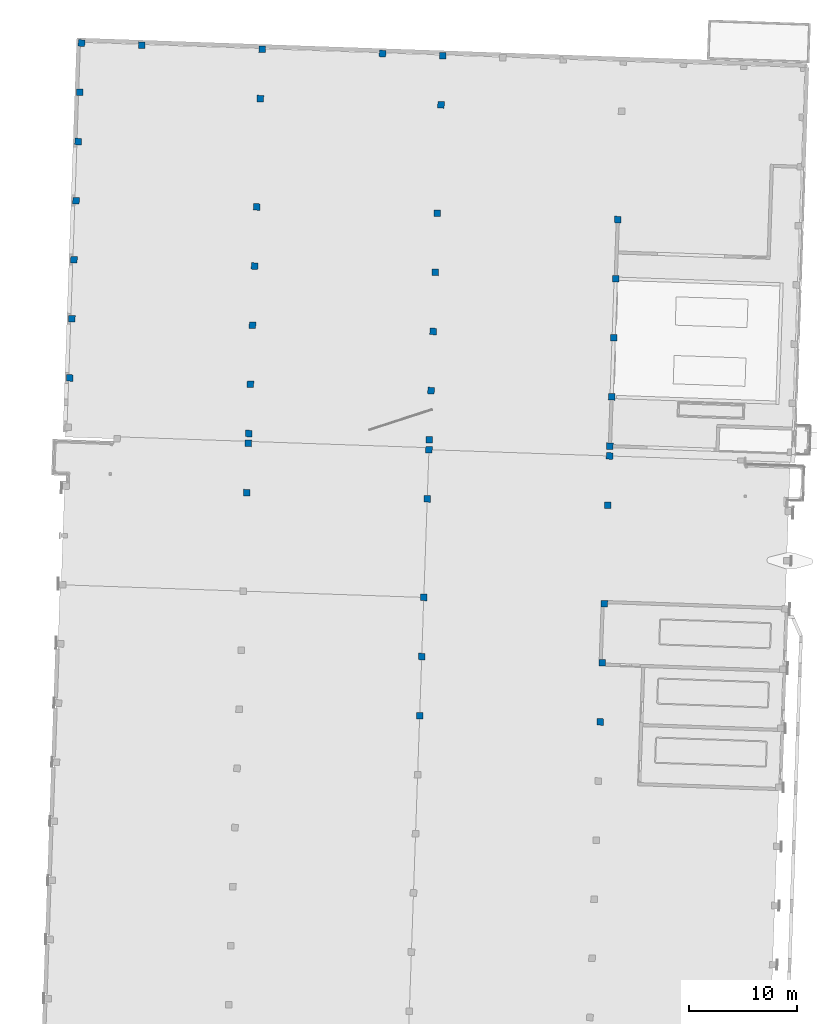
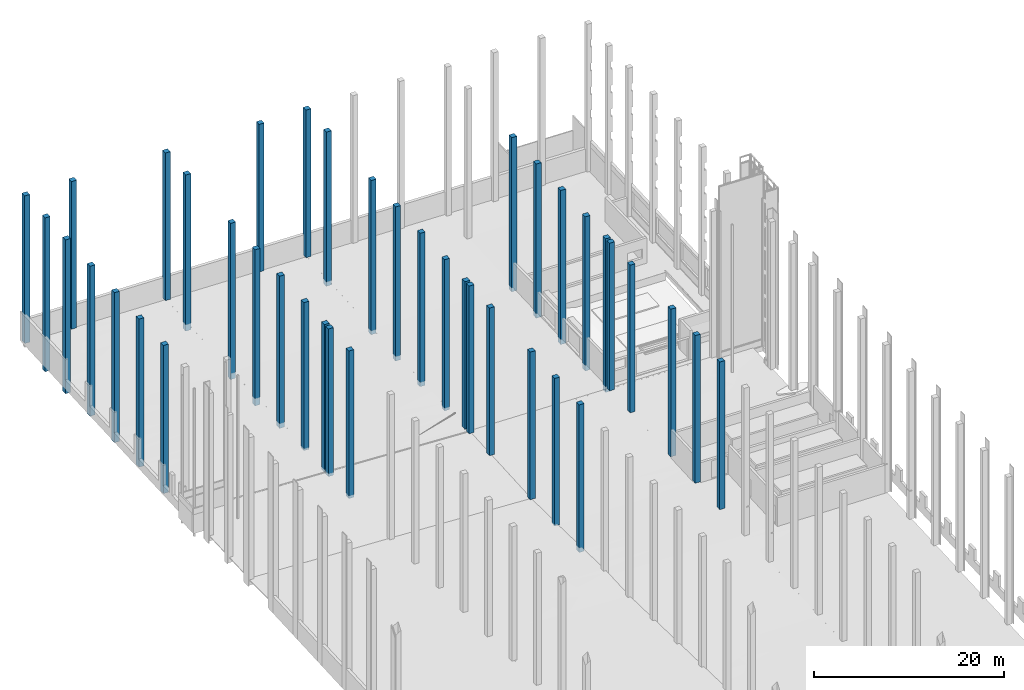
# One storey, part 4 of 44: 40 columns.
"""IFC2X3 building model written with IfcOpenShell, lengths in feet."""

from ifc_helpers import new_model, entity, si_unit, converted_unit, derived_unit, direction, frame, origin, origin_2d_with_axis, place, context, subcontext, project, spatial, rectangle, extrude, source, transform, mapped, material, type_object, type_shapes, element, save


model = new_model("IFC2X3")

# Units and contexts
model_context = context("Model", 3, precision=0.0001, world=origin(), true_north=direction((0.999390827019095, 0.0348994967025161)))
body_context = subcontext(model_context, "Body", "Model", "MODEL_VIEW")
ifc_project = project(units=[converted_unit("LENGTHUNIT", "FOOT", entity("IfcRatioMeasure", 0.3048), si_unit("LENGTHUNIT", "METRE"), dimensions=[1, 0, 0, 0, 0, 0, 0]), converted_unit("AREAUNIT", "SQUARE FOOT", entity("IfcRatioMeasure", 0.09290304), si_unit("AREAUNIT", "SQUARE_METRE"), dimensions=[2, 0, 0, 0, 0, 0, 0]), converted_unit("VOLUMEUNIT", "CUBIC FOOT", entity("IfcRatioMeasure", 0.028316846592), si_unit("VOLUMEUNIT", "CUBIC_METRE"), dimensions=[3, 0, 0, 0, 0, 0, 0]), converted_unit("PLANEANGLEUNIT", "DEGREE", entity("IfcRatioMeasure", 0.0174532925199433), si_unit("PLANEANGLEUNIT", "RADIAN"), dimensions=[0, 0, 0, 0, 0, 0, 0]), si_unit("MASSUNIT", "GRAM", prefix="KILO"), si_unit("TIMEUNIT", "SECOND"), si_unit("FREQUENCYUNIT", "HERTZ"), si_unit("THERMODYNAMICTEMPERATUREUNIT", "DEGREE_CELSIUS"), derived_unit("THERMALTRANSMITTANCEUNIT", [(si_unit("MASSUNIT", "GRAM", prefix="KILO"), 1), (si_unit("THERMODYNAMICTEMPERATUREUNIT", "KELVIN"), -1), (si_unit("TIMEUNIT", "SECOND"), -3)]), derived_unit("VOLUMETRICFLOWRATEUNIT", [(si_unit("LENGTHUNIT", "METRE"), 3), (si_unit("TIMEUNIT", "SECOND"), -1)]), si_unit("ELECTRICCURRENTUNIT", "AMPERE"), si_unit("ELECTRICVOLTAGEUNIT", "VOLT"), si_unit("POWERUNIT", "WATT"), si_unit("FORCEUNIT", "NEWTON"), si_unit("ILLUMINANCEUNIT", "LUX"), si_unit("LUMINOUSFLUXUNIT", "LUMEN"), si_unit("LUMINOUSINTENSITYUNIT", "CANDELA"), derived_unit("USERDEFINED", [(si_unit("MASSUNIT", "GRAM", prefix="KILO"), -1), (si_unit("LENGTHUNIT", "METRE"), -2), (si_unit("TIMEUNIT", "SECOND"), 3), (si_unit("LUMINOUSFLUXUNIT", "LUMEN"), 1)]), derived_unit("LINEARVELOCITYUNIT", [(si_unit("LENGTHUNIT", "METRE"), 1), (si_unit("TIMEUNIT", "SECOND"), -1)]), si_unit("PRESSUREUNIT", "PASCAL"), derived_unit("USERDEFINED", [(si_unit("LENGTHUNIT", "METRE"), -2), (si_unit("MASSUNIT", "GRAM", prefix="KILO"), 1), (si_unit("TIMEUNIT", "SECOND"), -2)])], contexts=[model_context])

# Site, building, storey
site_placement = place(None, frame((892.518771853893, 322.38689265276, 0.00393700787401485), z_axis=(0.0, 0.0, 1.0), x_axis=(0.0348994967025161, 0.999390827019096, 0.0)))
site = spatial("IfcSite", under=ifc_project, at=site_placement, Name="Default", CompositionType="ELEMENT")
building_placement = place(site_placement, origin())
building = spatial("IfcBuilding", under=site, at=building_placement, CompositionType="ELEMENT")
storey_placement = place(building_placement, frame((0.0, 0.0, 544.75)))
storey = spatial("IfcBuildingStorey", under=building, at=storey_placement, Name="Exist Garage - Ground Level", CompositionType="ELEMENT", Elevation=544.75)

# Columns
ifc_material = material(Name="Concrete - Cast-in-Place Concrete")
column_type_1 = type_object("IfcColumnType", Name="24 x 24", PredefinedType="COLUMN", material=ifc_material)
shared_shape_1 = source(origin(), body_context, "Body", "SweptSolid", [
    extrude(rectangle(XDim=2.0, YDim=2.0, at=origin_2d_with_axis()), frame((0.0, 0.0, 544.75), z_axis=(0.0, 0.0, 1.0), x_axis=(0.0, -1.0, 0.0)), (0.0, 0.0, 1.0), 62.25),
])
type_shapes(column_type_1, [shared_shape_1])
column_1_placement = place(storey_placement, frame((222.927293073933, 456.76395347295, -544.75)))
element("IfcColumn", 1, at=column_1_placement, inside=storey, type_object=column_type_1, material=ifc_material, Name="Concrete-Square-Column:24 x 24", ObjectType="24 x 24", context=body_context, shape_type="MappedRepresentation", body=[
    mapped(shared_shape_1, transform((0.0, 0.0, 0.0), scale=1.0)),
])
column_type_2 = type_object("IfcColumnType", Name="24 x 24", PredefinedType="COLUMN", material=ifc_material)
shared_shape_2 = source(origin(), body_context, "Body", "SweptSolid", [
    extrude(rectangle(XDim=2.0, YDim=2.0, at=origin_2d_with_axis()), frame((222.927293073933, 438.430620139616, 544.75), z_axis=(0.0, 0.0, 1.0), x_axis=(0.0, -1.0, 0.0)), (0.0, 0.0, 1.0), 62.25),
])
type_shapes(column_type_2, [shared_shape_2])
column_2_placement = place(storey_placement, frame((0.0, 0.0, -544.75)))
element("IfcColumn", 2, at=column_2_placement, inside=storey, type_object=column_type_2, material=ifc_material, Name="Concrete-Square-Column:24 x 24", ObjectType="24 x 24", context=body_context, shape_type="MappedRepresentation", body=[
    mapped(shared_shape_2, transform((0.0, 0.0, 0.0), scale=1.0)),
])
column_type_3 = type_object("IfcColumnType", Name="24 x 24", PredefinedType="COLUMN", material=ifc_material)
shared_shape_3 = source(origin(), body_context, "Body", "SweptSolid", [
    extrude(rectangle(XDim=2.0, YDim=2.0, at=origin_2d_with_axis()), frame((222.927293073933, 401.76395347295, 544.75), z_axis=(0.0, 0.0, 1.0), x_axis=(0.0, -1.0, 0.0)), (0.0, 0.0, 1.0), 62.25),
])
type_shapes(column_type_3, [shared_shape_3])
column_3_placement = place(storey_placement, frame((0.0, 0.0, -544.75)))
element("IfcColumn", 3, at=column_3_placement, inside=storey, type_object=column_type_3, material=ifc_material, Name="Concrete-Square-Column:24 x 24", ObjectType="24 x 24", context=body_context, shape_type="MappedRepresentation", body=[
    mapped(shared_shape_3, transform((0.0, 0.0, 0.0), scale=1.0)),
])
column_type_4 = type_object("IfcColumnType", Name="24 x 24", PredefinedType="COLUMN", material=ifc_material)
shared_shape_4 = source(origin(), body_context, "Body", "SweptSolid", [
    extrude(rectangle(XDim=2.0, YDim=2.0, at=origin_2d_with_axis()), frame((222.927293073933, 365.097286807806, 544.75), z_axis=(0.0, 0.0, 1.0), x_axis=(0.0, -1.0, 0.0)), (0.0, 0.0, 1.0), 62.25),
])
type_shapes(column_type_4, [shared_shape_4])
column_4_placement = place(storey_placement, frame((0.0, 0.0, -544.75)))
element("IfcColumn", 4, at=column_4_placement, inside=storey, type_object=column_type_4, material=ifc_material, Name="Concrete-Square-Column:24 x 24", ObjectType="24 x 24", context=body_context, shape_type="MappedRepresentation", body=[
    mapped(shared_shape_4, transform((0.0, 0.0, 0.0), scale=1.0)),
])
column_type_5 = type_object("IfcColumnType", Name="24 x 24", PredefinedType="COLUMN", material=ifc_material)
shared_shape_5 = source(origin(), body_context, "Body", "SweptSolid", [
    extrude(rectangle(XDim=2.0, YDim=2.0, at=origin_2d_with_axis()), frame((222.927293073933, 346.763953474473, 544.75), z_axis=(0.0, 0.0, 1.0), x_axis=(0.0, -1.0, 0.0)), (0.0, 0.0, 1.0), 62.25),
])
type_shapes(column_type_5, [shared_shape_5])
column_5_placement = place(storey_placement, frame((0.0, 0.0, -544.75)))
element("IfcColumn", 5, at=column_5_placement, inside=storey, type_object=column_type_5, material=ifc_material, Name="Concrete-Square-Column:24 x 24", ObjectType="24 x 24", context=body_context, shape_type="MappedRepresentation", body=[
    mapped(shared_shape_5, transform((0.0, 0.0, 0.0), scale=1.0)),
])
column_type_6 = type_object("IfcColumnType", Name="24 x 24", PredefinedType="COLUMN", material=ifc_material)
shared_shape_6 = source(origin(), body_context, "Body", "SweptSolid", [
    extrude(rectangle(XDim=2.0, YDim=2.0, at=origin_2d_with_axis()), frame((207.927293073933, 456.76395347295, 542.1298828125), z_axis=(0.0, 0.0, 1.0), x_axis=(0.0, -1.0, 0.0)), (0.0, 0.0, 1.0), 64.8701171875),
])
type_shapes(column_type_6, [shared_shape_6])
column_6_placement = place(storey_placement, frame((0.0, 0.0, -544.75)))
element("IfcColumn", 6, at=column_6_placement, inside=storey, type_object=column_type_6, material=ifc_material, Name="Concrete-Square-Column:24 x 24", ObjectType="24 x 24", context=body_context, shape_type="MappedRepresentation", body=[
    mapped(shared_shape_6, transform((0.0, 0.0, 0.0), scale=1.0)),
])
column_type_7 = type_object("IfcColumnType", Name="24 x 24", PredefinedType="COLUMN", material=ifc_material)
shared_shape_7 = source(origin(), body_context, "Body", "SweptSolid", [
    extrude(rectangle(XDim=2.0, YDim=2.0, at=origin_2d_with_axis()), frame((192.927293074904, 456.76395347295, 542.1298828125), z_axis=(0.0, 0.0, 1.0), x_axis=(0.0, -1.0, 0.0)), (0.0, 0.0, 1.0), 64.8701171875),
])
type_shapes(column_type_7, [shared_shape_7])
column_7_placement = place(storey_placement, frame((0.0, 0.0, -544.75)))
element("IfcColumn", 7, at=column_7_placement, inside=storey, type_object=column_type_7, material=ifc_material, Name="Concrete-Square-Column:24 x 24", ObjectType="24 x 24", context=body_context, shape_type="MappedRepresentation", body=[
    mapped(shared_shape_7, transform((0.0, 0.0, 0.0), scale=1.0)),
])
column_type_8 = type_object("IfcColumnType", Name="24 x 24", PredefinedType="COLUMN", material=ifc_material)
shared_shape_8 = source(origin(), body_context, "Body", "SweptSolid", [
    extrude(rectangle(XDim=2.0, YDim=2.0, at=origin_2d_with_axis()), frame((174.927293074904, 456.76395347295, 543.75), z_axis=(0.0, 0.0, 1.0), x_axis=(0.0, -1.0, 0.0)), (0.0, 0.0, 1.0), 63.25),
])
type_shapes(column_type_8, [shared_shape_8])
column_8_placement = place(storey_placement, frame((0.0, 0.0, -544.75)))
element("IfcColumn", 8, at=column_8_placement, inside=storey, type_object=column_type_8, material=ifc_material, Name="Concrete-Square-Column:24 x 24", ObjectType="24 x 24", context=body_context, shape_type="MappedRepresentation", body=[
    mapped(shared_shape_8, transform((0.0, 0.0, 0.0), scale=1.0)),
])
column_type_9 = type_object("IfcColumnType", Name="24 x 24", PredefinedType="COLUMN", material=ifc_material)
shared_shape_9 = source(origin(), body_context, "Body", "SweptSolid", [
    extrude(rectangle(XDim=2.0, YDim=2.0, at=origin_2d_with_axis()), frame((156.927293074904, 456.76395347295, 543.75), z_axis=(0.0, 0.0, 1.0), x_axis=(0.0, -1.0, 0.0)), (0.0, 0.0, 1.0), 63.25),
])
type_shapes(column_type_9, [shared_shape_9])
column_9_placement = place(storey_placement, frame((0.0, 0.0, -544.75)))
element("IfcColumn", 9, at=column_9_placement, inside=storey, type_object=column_type_9, material=ifc_material, Name="Concrete-Square-Column:24 x 24", ObjectType="24 x 24", context=body_context, shape_type="MappedRepresentation", body=[
    mapped(shared_shape_9, transform((0.0, 0.0, 0.0), scale=1.0)),
])
column_type_10 = type_object("IfcColumnType", Name="24 x 24", PredefinedType="COLUMN", material=ifc_material)
shared_shape_10 = source(origin(), body_context, "Body", "SweptSolid", [
    extrude(rectangle(XDim=2.0, YDim=2.0, at=origin_2d_with_axis()), frame((138.927293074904, 456.76395347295, 544.550130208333), z_axis=(0.0, 0.0, 1.0), x_axis=(0.0, -1.0, 0.0)), (0.0, 0.0, 1.0), 62.4498697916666),
])
type_shapes(column_type_10, [shared_shape_10])
column_10_placement = place(storey_placement, frame((0.0, 0.0, -544.75)))
element("IfcColumn", 10, at=column_10_placement, inside=storey, type_object=column_type_10, material=ifc_material, Name="Concrete-Square-Column:24 x 24", ObjectType="24 x 24", context=body_context, shape_type="MappedRepresentation", body=[
    mapped(shared_shape_10, transform((0.0, 0.0, 0.0), scale=1.0)),
])
column_type_11 = type_object("IfcColumnType", Name="24 x 24", PredefinedType="COLUMN", material=ifc_material)
shared_shape_11 = source(origin(), body_context, "Body", "SweptSolid", [
    extrude(rectangle(XDim=2.0, YDim=2.0, at=origin_2d_with_axis()), frame((120.927293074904, 456.76395347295, 544.550130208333), z_axis=(0.0, 0.0, 1.0), x_axis=(0.0, -1.0, 0.0)), (0.0, 0.0, 1.0), 62.4498697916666),
])
type_shapes(column_type_11, [shared_shape_11])
column_11_placement = place(storey_placement, frame((0.0, 0.0, -544.75)))
element("IfcColumn", 11, at=column_11_placement, inside=storey, type_object=column_type_11, material=ifc_material, Name="Concrete-Square-Column:24 x 24", ObjectType="24 x 24", context=body_context, shape_type="MappedRepresentation", body=[
    mapped(shared_shape_11, transform((0.0, 0.0, 0.0), scale=1.0)),
])
column_type_12 = type_object("IfcColumnType", Name="24 x 24", PredefinedType="COLUMN", material=ifc_material)
shared_shape_12 = source(origin(), body_context, "Body", "SweptSolid", [
    extrude(rectangle(XDim=2.0, YDim=2.0, at=origin_2d_with_axis()), frame((207.927293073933, 401.76395347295, 541.169921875), z_axis=(0.0, 0.0, 1.0), x_axis=(0.0, -1.0, 0.0)), (0.0, 0.0, 1.0), 65.830078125),
])
type_shapes(column_type_12, [shared_shape_12])
column_12_placement = place(storey_placement, frame((0.0, 0.0, -544.75)))
element("IfcColumn", 12, at=column_12_placement, inside=storey, type_object=column_type_12, material=ifc_material, Name="Concrete-Square-Column:24 x 24", ObjectType="24 x 24", context=body_context, shape_type="MappedRepresentation", body=[
    mapped(shared_shape_12, transform((0.0, 0.0, 0.0), scale=1.0)),
])
column_type_13 = type_object("IfcColumnType", Name="24 x 24", PredefinedType="COLUMN", material=ifc_material)
shared_shape_13 = source(origin(), body_context, "Body", "SweptSolid", [
    extrude(rectangle(XDim=2.0, YDim=2.0, at=origin_2d_with_axis()), frame((174.927293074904, 401.76395347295, 541.169921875), z_axis=(0.0, 0.0, 1.0), x_axis=(0.0, -1.0, 0.0)), (0.0, 0.0, 1.0), 65.830078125),
])
type_shapes(column_type_13, [shared_shape_13])
column_13_placement = place(storey_placement, frame((0.0, 0.0, -544.75)))
element("IfcColumn", 13, at=column_13_placement, inside=storey, type_object=column_type_13, material=ifc_material, Name="Concrete-Square-Column:24 x 24", ObjectType="24 x 24", context=body_context, shape_type="MappedRepresentation", body=[
    mapped(shared_shape_13, transform((0.0, 0.0, 0.0), scale=1.0)),
])
column_type_14 = type_object("IfcColumnType", Name="24 x 24", PredefinedType="COLUMN", material=ifc_material)
shared_shape_14 = source(origin(), body_context, "Body", "SweptSolid", [
    extrude(rectangle(XDim=2.0, YDim=2.0, at=origin_2d_with_axis()), frame((156.927293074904, 401.76395347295, 541.169921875), z_axis=(0.0, 0.0, 1.0), x_axis=(0.0, -1.0, 0.0)), (0.0, 0.0, 1.0), 65.830078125),
])
type_shapes(column_type_14, [shared_shape_14])
column_14_placement = place(storey_placement, frame((0.0, 0.0, -544.75)))
element("IfcColumn", 14, at=column_14_placement, inside=storey, type_object=column_type_14, material=ifc_material, Name="Concrete-Square-Column:24 x 24", ObjectType="24 x 24", context=body_context, shape_type="MappedRepresentation", body=[
    mapped(shared_shape_14, transform((0.0, 0.0, 0.0), scale=1.0)),
])
column_type_15 = type_object("IfcColumnType", Name="24 x 24", PredefinedType="COLUMN", material=ifc_material)
shared_shape_15 = source(origin(), body_context, "Body", "SweptSolid", [
    extrude(rectangle(XDim=2.0, YDim=2.0, at=origin_2d_with_axis()), frame((138.927293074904, 401.76395347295, 542.830078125), z_axis=(0.0, 0.0, 1.0), x_axis=(0.0, -1.0, 0.0)), (0.0, 0.0, 1.0), 64.169921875),
])
type_shapes(column_type_15, [shared_shape_15])
column_15_placement = place(storey_placement, frame((0.0, 0.0, -544.75)))
element("IfcColumn", 15, at=column_15_placement, inside=storey, type_object=column_type_15, material=ifc_material, Name="Concrete-Square-Column:24 x 24", ObjectType="24 x 24", context=body_context, shape_type="MappedRepresentation", body=[
    mapped(shared_shape_15, transform((0.0, 0.0, 0.0), scale=1.0)),
])
column_type_16 = type_object("IfcColumnType", Name="24 x 24", PredefinedType="COLUMN", material=ifc_material)
shared_shape_16 = source(origin(), body_context, "Body", "SweptSolid", [
    extrude(rectangle(XDim=2.0, YDim=2.0, at=origin_2d_with_axis()), frame((120.927293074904, 401.76395347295, 544.580078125), z_axis=(0.0, 0.0, 1.0), x_axis=(0.0, -1.0, 0.0)), (0.0, 0.0, 1.0), 62.419921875),
])
type_shapes(column_type_16, [shared_shape_16])
column_16_placement = place(storey_placement, frame((0.0, 0.0, -544.75)))
element("IfcColumn", 16, at=column_16_placement, inside=storey, type_object=column_type_16, material=ifc_material, Name="Concrete-Square-Column:24 x 24", ObjectType="24 x 24", context=body_context, shape_type="MappedRepresentation", body=[
    mapped(shared_shape_16, transform((0.0, 0.0, 0.0), scale=1.0)),
])
column_type_17 = type_object("IfcColumnType", Name="24 x 24", PredefinedType="COLUMN", material=ifc_material)
shared_shape_17 = source(origin(), body_context, "Body", "SweptSolid", [
    extrude(rectangle(XDim=2.0, YDim=2.0, at=origin_2d_with_axis()), frame((105.927293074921, 401.76395347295, 544.75), z_axis=(0.0, 0.0, 1.0), x_axis=(0.0, -1.0, 0.0)), (0.0, 0.0, 1.0), 62.25),
])
type_shapes(column_type_17, [shared_shape_17])
column_17_placement = place(storey_placement, frame((0.0, 0.0, -544.75)))
element("IfcColumn", 17, at=column_17_placement, inside=storey, type_object=column_type_17, material=ifc_material, Name="Concrete-Square-Column:24 x 24", ObjectType="24 x 24", context=body_context, shape_type="MappedRepresentation", body=[
    mapped(shared_shape_17, transform((0.0, 0.0, 0.0), scale=1.0)),
])
column_type_18 = type_object("IfcColumnType", Name="24 x 24", PredefinedType="COLUMN", material=ifc_material)
shared_shape_18 = source(origin(), body_context, "Body", "SweptSolid", [
    extrude(rectangle(XDim=2.0, YDim=2.0, at=origin_2d_with_axis()), frame((207.927293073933, 346.763953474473, 542.0), z_axis=(0.0, 0.0, 1.0), x_axis=(0.0, -1.0, 0.0)), (0.0, 0.0, 1.0), 65.0),
])
type_shapes(column_type_18, [shared_shape_18])
column_18_placement = place(storey_placement, frame((0.0, 0.0, -544.75)))
element("IfcColumn", 18, at=column_18_placement, inside=storey, type_object=column_type_18, material=ifc_material, Name="Concrete-Square-Column:24 x 24", ObjectType="24 x 24", context=body_context, shape_type="MappedRepresentation", body=[
    mapped(shared_shape_18, transform((0.0, 0.0, 0.0), scale=1.0)),
])
column_type_19 = type_object("IfcColumnType", Name="24 x 24", PredefinedType="COLUMN", material=ifc_material)
shared_shape_19 = source(origin(), body_context, "Body", "SweptSolid", [
    extrude(rectangle(XDim=2.0, YDim=2.0, at=origin_2d_with_axis()), frame((174.927293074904, 346.763953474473, 542.0), z_axis=(0.0, 0.0, 1.0), x_axis=(0.0, -1.0, 0.0)), (0.0, 0.0, 1.0), 65.0),
])
type_shapes(column_type_19, [shared_shape_19])
column_19_placement = place(storey_placement, frame((0.0, 0.0, -544.75)))
element("IfcColumn", 19, at=column_19_placement, inside=storey, type_object=column_type_19, material=ifc_material, Name="Concrete-Square-Column:24 x 24", ObjectType="24 x 24", context=body_context, shape_type="MappedRepresentation", body=[
    mapped(shared_shape_19, transform((0.0, 0.0, 0.0), scale=1.0)),
])
column_type_20 = type_object("IfcColumnType", Name="24 x 24", PredefinedType="COLUMN", material=ifc_material)
shared_shape_20 = source(origin(), body_context, "Body", "SweptSolid", [
    extrude(rectangle(XDim=2.0, YDim=2.0, at=origin_2d_with_axis()), frame((156.927293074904, 346.763953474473, 542.0), z_axis=(0.0, 0.0, 1.0), x_axis=(0.0, -1.0, 0.0)), (0.0, 0.0, 1.0), 65.0),
])
type_shapes(column_type_20, [shared_shape_20])
column_20_placement = place(storey_placement, frame((0.0, 0.0, -544.75)))
element("IfcColumn", 20, at=column_20_placement, inside=storey, type_object=column_type_20, material=ifc_material, Name="Concrete-Square-Column:24 x 24", ObjectType="24 x 24", context=body_context, shape_type="MappedRepresentation", body=[
    mapped(shared_shape_20, transform((0.0, 0.0, 0.0), scale=1.0)),
])
column_type_21 = type_object("IfcColumnType", Name="24 x 24", PredefinedType="COLUMN", material=ifc_material)
shared_shape_21 = source(origin(), body_context, "Body", "SweptSolid", [
    extrude(rectangle(XDim=2.0, YDim=2.0, at=origin_2d_with_axis()), frame((138.927293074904, 346.763953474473, 542.330078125), z_axis=(0.0, 0.0, 1.0), x_axis=(0.0, -1.0, 0.0)), (0.0, 0.0, 1.0), 64.669921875),
])
type_shapes(column_type_21, [shared_shape_21])
column_21_placement = place(storey_placement, frame((0.0, 0.0, -544.75)))
element("IfcColumn", 21, at=column_21_placement, inside=storey, type_object=column_type_21, material=ifc_material, Name="Concrete-Square-Column:24 x 24", ObjectType="24 x 24", context=body_context, shape_type="MappedRepresentation", body=[
    mapped(shared_shape_21, transform((0.0, 0.0, 0.0), scale=1.0)),
])
column_type_22 = type_object("IfcColumnType", Name="24 x 24", PredefinedType="COLUMN", material=ifc_material)
shared_shape_22 = source(origin(), body_context, "Body", "SweptSolid", [
    extrude(rectangle(XDim=2.0, YDim=2.0, at=origin_2d_with_axis()), frame((120.927293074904, 346.763953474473, 543.25), z_axis=(0.0, 0.0, 1.0), x_axis=(0.0, -1.0, 0.0)), (0.0, 0.0, 1.0), 63.75),
])
type_shapes(column_type_22, [shared_shape_22])
column_22_placement = place(storey_placement, frame((0.0, 0.0, -544.75)))
element("IfcColumn", 22, at=column_22_placement, inside=storey, type_object=column_type_22, material=ifc_material, Name="Concrete-Square-Column:24 x 24", ObjectType="24 x 24", context=body_context, shape_type="MappedRepresentation", body=[
    mapped(shared_shape_22, transform((0.0, 0.0, 0.0), scale=1.0)),
])
column_type_23 = type_object("IfcColumnType", Name="24 x 24", PredefinedType="COLUMN", material=ifc_material)
shared_shape_23 = source(origin(), body_context, "Body", "SweptSolid", [
    extrude(rectangle(XDim=2.0, YDim=2.0, at=origin_2d_with_axis()), frame((105.927293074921, 346.763953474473, 544.75), z_axis=(0.0, 0.0, 1.0), x_axis=(0.0, -1.0, 0.0)), (0.0, 0.0, 1.0), 62.25),
])
type_shapes(column_type_23, [shared_shape_23])
column_23_placement = place(storey_placement, frame((0.0, 0.0, -544.75)))
element("IfcColumn", 23, at=column_23_placement, inside=storey, type_object=column_type_23, material=ifc_material, Name="Concrete-Square-Column:24 x 24", ObjectType="24 x 24", context=body_context, shape_type="MappedRepresentation", body=[
    mapped(shared_shape_23, transform((0.0, 0.0, 0.0), scale=1.0)),
])
column_type_24 = type_object("IfcColumnType", Name="24 x 24", PredefinedType="COLUMN", material=ifc_material)
shared_shape_24 = source(origin(), body_context, "Body", "SweptSolid", [
    extrude(rectangle(XDim=2.0, YDim=2.0, at=origin_2d_with_axis()), frame((174.927293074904, 291.763953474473, 542.0), z_axis=(0.0, 0.0, 1.0), x_axis=(0.0, -1.0, 0.0)), (0.0, 0.0, 1.0), 65.0),
])
type_shapes(column_type_24, [shared_shape_24])
column_24_placement = place(storey_placement, frame((0.0, 0.0, -544.75)))
element("IfcColumn", 24, at=column_24_placement, inside=storey, type_object=column_type_24, material=ifc_material, Name="Concrete-Square-Column:24 x 24", ObjectType="24 x 24", context=body_context, shape_type="MappedRepresentation", body=[
    mapped(shared_shape_24, transform((0.0, 0.0, 0.0), scale=1.0)),
])
column_type_25 = type_object("IfcColumnType", Name="24 x 24", PredefinedType="COLUMN", material=ifc_material)
shared_shape_25 = source(origin(), body_context, "Body", "SweptSolid", [
    extrude(rectangle(XDim=2.0, YDim=2.0, at=origin_2d_with_axis()), frame((156.927293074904, 291.763953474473, 542.0), z_axis=(0.0, 0.0, 1.0), x_axis=(0.0, -1.0, 0.0)), (0.0, 0.0, 1.0), 65.0),
])
type_shapes(column_type_25, [shared_shape_25])
column_25_placement = place(storey_placement, frame((0.0, 0.0, -544.75)))
element("IfcColumn", 25, at=column_25_placement, inside=storey, type_object=column_type_25, material=ifc_material, Name="Concrete-Square-Column:24 x 24", ObjectType="24 x 24", context=body_context, shape_type="MappedRepresentation", body=[
    mapped(shared_shape_25, transform((0.0, 0.0, 0.0), scale=1.0)),
])
column_type_26 = type_object("IfcColumnType", Name="24 x 24", PredefinedType="COLUMN", material=ifc_material)
shared_shape_26 = source(origin(), body_context, "Body", "SweptSolid", [
    extrude(rectangle(XDim=2.0, YDim=2.0, at=origin_2d_with_axis()), frame((138.927293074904, 291.763953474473, 542.0), z_axis=(0.0, 0.0, 1.0), x_axis=(0.0, -1.0, 0.0)), (0.0, 0.0, 1.0), 65.0),
])
type_shapes(column_type_26, [shared_shape_26])
column_26_placement = place(storey_placement, frame((0.0, 0.0, -544.75)))
element("IfcColumn", 26, at=column_26_placement, inside=storey, type_object=column_type_26, material=ifc_material, Name="Concrete-Square-Column:24 x 24", ObjectType="24 x 24", context=body_context, shape_type="MappedRepresentation", body=[
    mapped(shared_shape_26, transform((0.0, 0.0, 0.0), scale=1.0)),
])
column_type_27 = type_object("IfcColumnType", Name="24 x 24", PredefinedType="COLUMN", material=ifc_material)
shared_shape_27 = source(origin(), body_context, "Body", "SweptSolid", [
    extrude(rectangle(XDim=2.0, YDim=2.0, at=origin_2d_with_axis()), frame((120.927293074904, 291.763953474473, 542.0), z_axis=(0.0, 0.0, 1.0), x_axis=(0.0, -1.0, 0.0)), (0.0, 0.0, 1.0), 65.0),
])
type_shapes(column_type_27, [shared_shape_27])
column_27_placement = place(storey_placement, frame((0.0, 0.0, -544.75)))
element("IfcColumn", 27, at=column_27_placement, inside=storey, type_object=column_type_27, material=ifc_material, Name="Concrete-Square-Column:24 x 24", ObjectType="24 x 24", context=body_context, shape_type="MappedRepresentation", body=[
    mapped(shared_shape_27, transform((0.0, 0.0, 0.0), scale=1.0)),
])
column_type_28 = type_object("IfcColumnType", Name="24 x 24", PredefinedType="COLUMN", material=ifc_material)
shared_shape_28 = source(origin(), body_context, "Body", "SweptSolid", [
    extrude(rectangle(XDim=2.0, YDim=2.0, at=origin_2d_with_axis()), frame((105.927293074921, 291.763953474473, 542.25), z_axis=(0.0, 0.0, 1.0), x_axis=(0.0, -1.0, 0.0)), (0.0, 0.0, 1.0), 64.75),
])
type_shapes(column_type_28, [shared_shape_28])
column_28_placement = place(storey_placement, frame((0.0, 0.0, -544.75)))
element("IfcColumn", 28, at=column_28_placement, inside=storey, type_object=column_type_28, material=ifc_material, Name="Concrete-Square-Column:24 x 24", ObjectType="24 x 24", context=body_context, shape_type="MappedRepresentation", body=[
    mapped(shared_shape_28, transform((0.0, 0.0, 0.0), scale=1.0)),
])
column_type_29 = type_object("IfcColumnType", Name="24 x 24", PredefinedType="COLUMN", material=ifc_material)
shared_shape_29 = source(origin(), body_context, "Body", "SweptSolid", [
    extrude(rectangle(XDim=2.0, YDim=2.0, at=origin_2d_with_axis()), frame((102.927296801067, 401.76395347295, 544.75), z_axis=(0.0, 0.0, 1.0), x_axis=(0.0, -1.0, 0.0)), (0.0, 0.0, 1.0), 62.25),
])
type_shapes(column_type_29, [shared_shape_29])
column_29_placement = place(storey_placement, frame((0.0, 0.0, -544.75)))
element("IfcColumn", 29, at=column_29_placement, inside=storey, type_object=column_type_29, material=ifc_material, Name="Concrete-Square-Column:24 x 24", ObjectType="24 x 24", context=body_context, shape_type="MappedRepresentation", body=[
    mapped(shared_shape_29, transform((0.0, 0.0, 0.0), scale=1.0)),
])
column_type_30 = type_object("IfcColumnType", Name="24 x 24", PredefinedType="COLUMN", material=ifc_material)
shared_shape_30 = source(origin(), body_context, "Body", "SweptSolid", [
    extrude(rectangle(XDim=2.0, YDim=2.0, at=origin_2d_with_axis()), frame((87.9272968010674, 401.76395347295, 544.75), z_axis=(0.0, 0.0, 1.0), x_axis=(0.0, -1.0, 0.0)), (0.0, 0.0, 1.0), 62.25),
])
type_shapes(column_type_30, [shared_shape_30])
column_30_placement = place(storey_placement, frame((0.0, 0.0, -544.75)))
element("IfcColumn", 30, at=column_30_placement, inside=storey, type_object=column_type_30, material=ifc_material, Name="Concrete-Square-Column:24 x 24", ObjectType="24 x 24", context=body_context, shape_type="MappedRepresentation", body=[
    mapped(shared_shape_30, transform((0.0, 0.0, 0.0), scale=1.0)),
])
column_type_31 = type_object("IfcColumnType", Name="24 x 24", PredefinedType="COLUMN", material=ifc_material)
shared_shape_31 = source(origin(), body_context, "Body", "SweptSolid", [
    extrude(rectangle(XDim=2.0, YDim=2.0, at=origin_2d_with_axis()), frame((102.927296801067, 346.763953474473, 544.75), z_axis=(0.0, 0.0, 1.0), x_axis=(0.0, -1.0, 0.0)), (0.0, 0.0, 1.0), 62.25),
])
type_shapes(column_type_31, [shared_shape_31])
column_31_placement = place(storey_placement, frame((0.0, 0.0, -544.75)))
element("IfcColumn", 31, at=column_31_placement, inside=storey, type_object=column_type_31, material=ifc_material, Name="Concrete-Square-Column:24 x 24", ObjectType="24 x 24", context=body_context, shape_type="MappedRepresentation", body=[
    mapped(shared_shape_31, transform((0.0, 0.0, 0.0), scale=1.0)),
])
column_type_32 = type_object("IfcColumnType", Name="24 x 24", PredefinedType="COLUMN", material=ifc_material)
shared_shape_32 = source(origin(), body_context, "Body", "SweptSolid", [
    extrude(rectangle(XDim=2.0, YDim=2.0, at=origin_2d_with_axis()), frame((87.9272968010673, 346.763953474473, 544.75), z_axis=(0.0, 0.0, 1.0), x_axis=(0.0, -1.0, 0.0)), (0.0, 0.0, 1.0), 62.25),
])
type_shapes(column_type_32, [shared_shape_32])
column_32_placement = place(storey_placement, frame((0.0, 0.0, -544.75)))
element("IfcColumn", 32, at=column_32_placement, inside=storey, type_object=column_type_32, material=ifc_material, Name="Concrete-Square-Column:24 x 24", ObjectType="24 x 24", context=body_context, shape_type="MappedRepresentation", body=[
    mapped(shared_shape_32, transform((0.0, 0.0, 0.0), scale=1.0)),
])
column_type_33 = type_object("IfcColumnType", Name="24 x 24", PredefinedType="COLUMN", material=ifc_material)
shared_shape_33 = source(origin(), body_context, "Body", "SweptSolid", [
    extrude(rectangle(XDim=2.0, YDim=2.0, at=origin_2d_with_axis()), frame((57.9272542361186, 346.763953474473, 544.75), z_axis=(0.0, 0.0, 1.0), x_axis=(0.0, -1.0, 0.0)), (0.0, 0.0, 1.0), 62.25),
])
type_shapes(column_type_33, [shared_shape_33])
column_33_placement = place(storey_placement, frame((0.0, 0.0, -544.75)))
element("IfcColumn", 33, at=column_33_placement, inside=storey, type_object=column_type_33, material=ifc_material, Name="Concrete-Square-Column:24 x 24", ObjectType="24 x 24", context=body_context, shape_type="MappedRepresentation", body=[
    mapped(shared_shape_33, transform((0.0, 0.0, 0.0), scale=1.0)),
])
column_type_34 = type_object("IfcColumnType", Name="24 x 24", PredefinedType="COLUMN", material=ifc_material)
shared_shape_34 = source(origin(), body_context, "Body", "SweptSolid", [
    extrude(rectangle(XDim=2.0, YDim=2.0, at=origin_2d_with_axis()), frame((39.9272542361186, 346.763953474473, 544.75), z_axis=(0.0, 0.0, 1.0), x_axis=(0.0, -1.0, 0.0)), (0.0, 0.0, 1.0), 62.25),
])
type_shapes(column_type_34, [shared_shape_34])
column_34_placement = place(storey_placement, frame((0.0, 0.0, -544.75)))
element("IfcColumn", 34, at=column_34_placement, inside=storey, type_object=column_type_34, material=ifc_material, Name="Concrete-Square-Column:24 x 24", ObjectType="24 x 24", context=body_context, shape_type="MappedRepresentation", body=[
    mapped(shared_shape_34, transform((0.0, 0.0, 0.0), scale=1.0)),
])
column_type_35 = type_object("IfcColumnType", Name="24 x 24", PredefinedType="COLUMN", material=ifc_material)
shared_shape_35 = source(origin(), body_context, "Body", "SweptSolid", [
    extrude(rectangle(XDim=2.0, YDim=2.0, at=origin_2d_with_axis()), frame((21.9272542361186, 346.763953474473, 544.75), z_axis=(0.0, 0.0, 1.0), x_axis=(0.0, -1.0, 0.0)), (0.0, 0.0, 1.0), 62.25),
])
type_shapes(column_type_35, [shared_shape_35])
column_35_placement = place(storey_placement, frame((0.0, 0.0, -544.75)))
element("IfcColumn", 35, at=column_35_placement, inside=storey, type_object=column_type_35, material=ifc_material, Name="Concrete-Square-Column:24 x 24", ObjectType="24 x 24", context=body_context, shape_type="MappedRepresentation", body=[
    mapped(shared_shape_35, transform((0.0, 0.0, 0.0), scale=1.0)),
])
column_type_36 = type_object("IfcColumnType", Name="24 x 24", PredefinedType="COLUMN", material=ifc_material)
shared_shape_36 = source(origin(), body_context, "Body", "SweptSolid", [
    extrude(rectangle(XDim=2.0, YDim=2.0, at=origin_2d_with_axis()), frame((102.927296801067, 291.763953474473, 544.75), z_axis=(0.0, 0.0, 1.0), x_axis=(0.0, -1.0, 0.0)), (0.0, 0.0, 1.0), 62.25),
])
type_shapes(column_type_36, [shared_shape_36])
column_36_placement = place(storey_placement, frame((0.0, 0.0, -544.75)))
element("IfcColumn", 36, at=column_36_placement, inside=storey, type_object=column_type_36, material=ifc_material, Name="Concrete-Square-Column:24 x 24", ObjectType="24 x 24", context=body_context, shape_type="MappedRepresentation", body=[
    mapped(shared_shape_36, transform((0.0, 0.0, 0.0), scale=1.0)),
])
column_type_37 = type_object("IfcColumnType", Name="24 x 24", PredefinedType="COLUMN", material=ifc_material)
shared_shape_37 = source(origin(), body_context, "Body", "SweptSolid", [
    extrude(rectangle(XDim=2.0, YDim=2.0, at=origin_2d_with_axis()), frame((87.9272968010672, 291.763953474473, 544.75), z_axis=(0.0, 0.0, 1.0), x_axis=(0.0, -1.0, 0.0)), (0.0, 0.0, 1.0), 62.25),
])
type_shapes(column_type_37, [shared_shape_37])
column_37_placement = place(storey_placement, frame((0.0, 0.0, -544.75)))
element("IfcColumn", 37, at=column_37_placement, inside=storey, type_object=column_type_37, material=ifc_material, Name="Concrete-Square-Column:24 x 24", ObjectType="24 x 24", context=body_context, shape_type="MappedRepresentation", body=[
    mapped(shared_shape_37, transform((0.0, 0.0, 0.0), scale=1.0)),
])
column_type_38 = type_object("IfcColumnType", Name="24 x 24", PredefinedType="COLUMN", material=ifc_material)
shared_shape_38 = source(origin(), body_context, "Body", "SweptSolid", [
    extrude(rectangle(XDim=2.0, YDim=2.0, at=origin_2d_with_axis()), frame((57.9272542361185, 291.763953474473, 544.75), z_axis=(0.0, 0.0, 1.0), x_axis=(0.0, -1.0, 0.0)), (0.0, 0.0, 1.0), 62.25),
])
type_shapes(column_type_38, [shared_shape_38])
column_38_placement = place(storey_placement, frame((0.0, 0.0, -544.75)))
element("IfcColumn", 38, at=column_38_placement, inside=storey, type_object=column_type_38, material=ifc_material, Name="Concrete-Square-Column:24 x 24", ObjectType="24 x 24", context=body_context, shape_type="MappedRepresentation", body=[
    mapped(shared_shape_38, transform((0.0, 0.0, 0.0), scale=1.0)),
])
column_type_39 = type_object("IfcColumnType", Name="24 x 24", PredefinedType="COLUMN", material=ifc_material)
shared_shape_39 = source(origin(), body_context, "Body", "SweptSolid", [
    extrude(rectangle(XDim=2.0, YDim=2.0, at=origin_2d_with_axis()), frame((39.9272542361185, 291.763953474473, 544.75), z_axis=(0.0, 0.0, 1.0), x_axis=(0.0, -1.0, 0.0)), (0.0, 0.0, 1.0), 62.25),
])
type_shapes(column_type_39, [shared_shape_39])
column_39_placement = place(storey_placement, frame((0.0, 0.0, -544.75)))
element("IfcColumn", 39, at=column_39_placement, inside=storey, type_object=column_type_39, material=ifc_material, Name="Concrete-Square-Column:24 x 24", ObjectType="24 x 24", context=body_context, shape_type="MappedRepresentation", body=[
    mapped(shared_shape_39, transform((0.0, 0.0, 0.0), scale=1.0)),
])
column_type_40 = type_object("IfcColumnType", Name="24 x 24", PredefinedType="COLUMN", material=ifc_material)
shared_shape_40 = source(origin(), body_context, "Body", "SweptSolid", [
    extrude(rectangle(XDim=2.0, YDim=2.0, at=origin_2d_with_axis()), frame((21.9272542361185, 291.763953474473, 544.75), z_axis=(0.0, 0.0, 1.0), x_axis=(0.0, -1.0, 0.0)), (0.0, 0.0, 1.0), 62.25),
])
type_shapes(column_type_40, [shared_shape_40])
column_40_placement = place(storey_placement, frame((0.0, 0.0, -544.75)))
element("IfcColumn", 40, at=column_40_placement, inside=storey, type_object=column_type_40, material=ifc_material, Name="Concrete-Square-Column:24 x 24", ObjectType="24 x 24", context=body_context, shape_type="MappedRepresentation", body=[
    mapped(shared_shape_40, transform((0.0, 0.0, 0.0), scale=1.0)),
])

save(model, "model.ifc")
